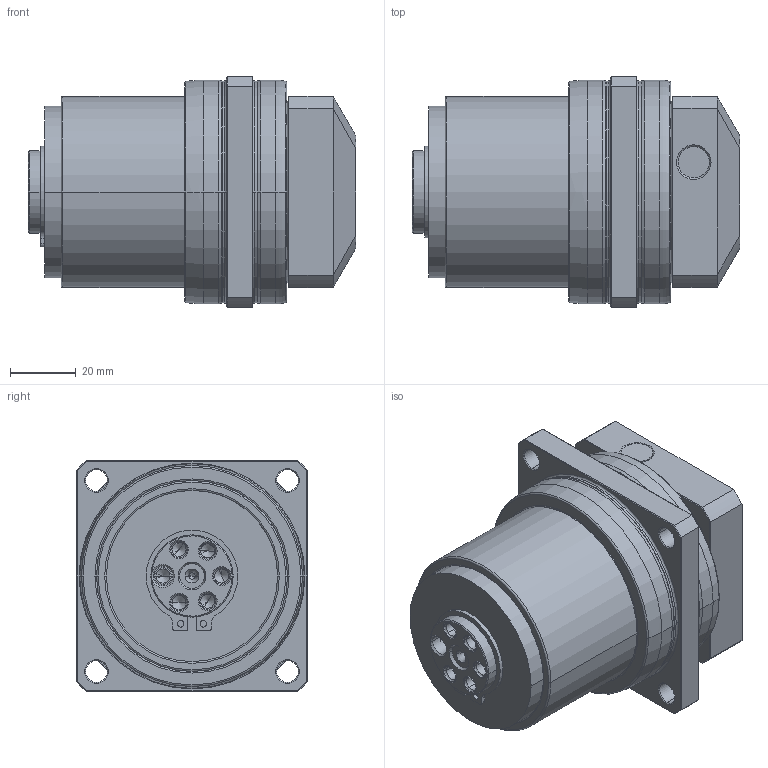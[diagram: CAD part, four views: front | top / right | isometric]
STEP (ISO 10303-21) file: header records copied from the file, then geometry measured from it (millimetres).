
FILE_DESCRIPTION((''),'2;1');
FILE_NAME('PL070_1ST_8-P0411100101_ASM','2016-05-30T',('d00435'),(''),'PRO/ENGINEER BY PARAMETRIC TECHNOLOGY CORPORATION, 2008410','PRO/ENGINEER BY PARAMETRIC TECHNOLOGY CORPORATION, 2008410','');
FILE_SCHEMA(('CONFIG_CONTROL_DESIGN'));
Length unit declared in the file: millimetre
Products named in the file (8): P0272200001; P1352200001; P0366200001; 22802000015; P0503100005; P0941200001; P0411100101; PL070_1ST_8-P0411100101_ASM
Assembly tree (7 placements, depth 2):
  PL070_1ST_8-P0411100101_ASM
    P0272200001
    P1352200001
    P0366200001
    22802000015
    P0503100005
    P0941200001
    P0411100101
Bounding box: 99.5 x 70 x 70 mm (x, y, z)
Volume: 295919.6 mm3; surface area: 71574.7 mm2
Topology: 7 solids, 18 shells, 390 faces, 916 edges, 554 vertices
Faces by surface type: cylinder 130, cone 100, plane 86, torus 60, bspline 14
Entity records: 16155 total; most frequent: CARTESIAN_POINT 6956, DIRECTION 2047, ORIENTED_EDGE 1760, EDGE_CURVE 902, AXIS2_PLACEMENT_3D 867, VERTEX_POINT 554, CIRCLE 470, EDGE_LOOP 444
